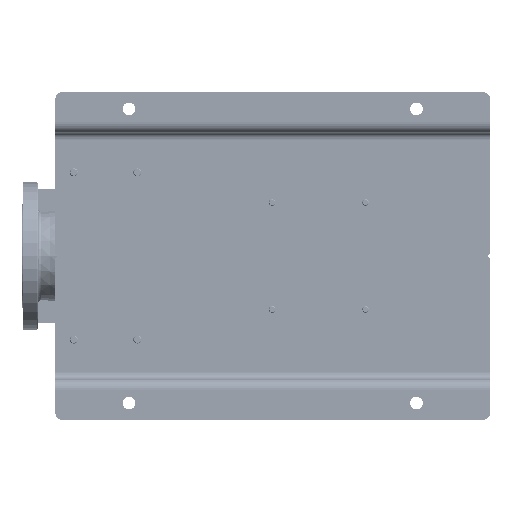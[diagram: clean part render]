
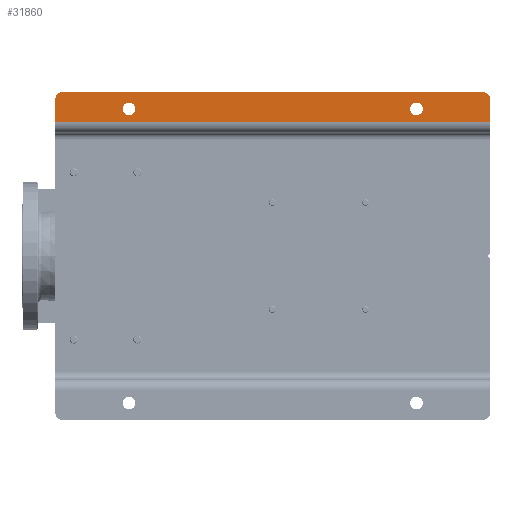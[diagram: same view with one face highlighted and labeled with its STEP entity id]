
A CAD part, front view. The second image highlights one B-rep face of the part: STEP entity #31860.
In plain terms, the highlighted planar face has unit normal (0, -1, 0).
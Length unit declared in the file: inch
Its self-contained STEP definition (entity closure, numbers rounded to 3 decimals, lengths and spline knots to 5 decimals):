
#2993 = EDGE_CURVE ( 'NONE', #10802, #163742, #46278, .T. ) ;
#3232 = DIRECTION ( 'NONE',  ( 0., 0., -1. ) ) ;
#5412 = CARTESIAN_POINT ( 'NONE',  ( 18.30709, 0., -21.25984 ) ) ;
#5581 = EDGE_CURVE ( 'NONE', #163742, #10802, #150352, .T. ) ;
#7454 = VECTOR ( 'NONE', #88319, 39.37008 ) ;
#8104 = CIRCLE ( 'NONE', #137161, 0.37402 ) ;
#9392 = ORIENTED_EDGE ( 'NONE', *, *, #138699, .T. ) ;
#10003 = ORIENTED_EDGE ( 'NONE', *, *, #149561, .T. ) ;
#10802 = VERTEX_POINT ( 'NONE', #14853 ) ;
#11184 = EDGE_LOOP ( 'NONE', ( #16219, #10003 ) ) ;
#12920 = ORIENTED_EDGE ( 'NONE', *, *, #5581, .T. ) ;
#14853 = CARTESIAN_POINT ( 'NONE',  ( 17.93307, 0., -21.25984 ) ) ;
#16219 = ORIENTED_EDGE ( 'NONE', *, *, #29444, .T. ) ;
#17359 = FACE_OUTER_BOUND ( 'NONE', #139835, .T. ) ;
#20827 = CARTESIAN_POINT ( 'NONE',  ( 18.89764, 0., -0.3937 ) ) ;
#21022 = EDGE_CURVE ( 'NONE', #49579, #185769, #112016, .T. ) ;
#28812 = LINE ( 'NONE', #86136, #98584 ) ;
#29444 = EDGE_CURVE ( 'NONE', #184801, #96715, #8104, .T. ) ;
#30089 = EDGE_CURVE ( 'NONE', #146883, #49579, #92258, .T. ) ;
#31860 = ADVANCED_FACE ( 'NONE', ( #17359, #114200, #74665 ), #171492, .T. ) ;
#34768 = CIRCLE ( 'NONE', #73776, 0.3937 ) ;
#35228 = AXIS2_PLACEMENT_3D ( 'NONE', #48564, #105876, #147171 ) ;
#35470 = CARTESIAN_POINT ( 'NONE',  ( 18.6811, 0., -4.33071 ) ) ;
#35819 = ORIENTED_EDGE ( 'NONE', *, *, #62052, .T. ) ;
#36052 = VECTOR ( 'NONE', #38091, 39.37008 ) ;
#38091 = DIRECTION ( 'NONE',  ( 0., 0., -1. ) ) ;
#40995 = EDGE_CURVE ( 'NONE', #162009, #146883, #147432, .T. ) ;
#43716 = CARTESIAN_POINT ( 'NONE',  ( 16.88976, 0., -25.59055 ) ) ;
#46278 = CIRCLE ( 'NONE', #55296, 0.37402 ) ;
#48374 = AXIS2_PLACEMENT_3D ( 'NONE', #43716, #131955, #3232 ) ;
#48564 = CARTESIAN_POINT ( 'NONE',  ( 18.89764, 0., -25.19685 ) ) ;
#49579 = VERTEX_POINT ( 'NONE', #158524 ) ;
#55296 = AXIS2_PLACEMENT_3D ( 'NONE', #5412, #62781, #116381 ) ;
#57314 = AXIS2_PLACEMENT_3D ( 'NONE', #151841, #150918, #105895 ) ;
#61707 = DIRECTION ( 'NONE',  ( 0., 0., -1. ) ) ;
#62052 = EDGE_CURVE ( 'NONE', #123781, #162009, #93572, .T. ) ;
#62781 = DIRECTION ( 'NONE',  ( 0., 1., 0. ) ) ;
#64085 = DIRECTION ( 'NONE',  ( 0., -1., 0. ) ) ;
#73776 = AXIS2_PLACEMENT_3D ( 'NONE', #20827, #64085, #152316 ) ;
#74665 = FACE_BOUND ( 'NONE', #115690, .T. ) ;
#80980 = VECTOR ( 'NONE', #170210, 39.37008 ) ;
#86136 = CARTESIAN_POINT ( 'NONE',  ( 16.88976, 0., 0. ) ) ;
#88319 = DIRECTION ( 'NONE',  ( 1., 0., 0. ) ) ;
#91770 = CARTESIAN_POINT ( 'NONE',  ( 18.30709, 0., -4.33071 ) ) ;
#92258 = CIRCLE ( 'NONE', #35228, 0.3937 ) ;
#92664 = DIRECTION ( 'NONE',  ( 0., 1., 0. ) ) ;
#93572 = LINE ( 'NONE', #94495, #36052 ) ;
#94495 = CARTESIAN_POINT ( 'NONE',  ( 17.51969, 0., -25.59055 ) ) ;
#96715 = VERTEX_POINT ( 'NONE', #35470 ) ;
#97250 = EDGE_CURVE ( 'NONE', #123781, #135707, #28812, .T. ) ;
#98303 = CARTESIAN_POINT ( 'NONE',  ( 18.89764, 0., -25.59055 ) ) ;
#98584 = VECTOR ( 'NONE', #122609, 39.37008 ) ;
#99558 = ORIENTED_EDGE ( 'NONE', *, *, #30089, .T. ) ;
#104453 = ORIENTED_EDGE ( 'NONE', *, *, #40995, .T. ) ;
#105876 = DIRECTION ( 'NONE',  ( 0., -1., 0. ) ) ;
#105895 = DIRECTION ( 'NONE',  ( 0., 0., -1. ) ) ;
#110966 = ORIENTED_EDGE ( 'NONE', *, *, #2993, .T. ) ;
#112016 = LINE ( 'NONE', #172035, #80980 ) ;
#112293 = ORIENTED_EDGE ( 'NONE', *, *, #97250, .F. ) ;
#112569 = ORIENTED_EDGE ( 'NONE', *, *, #21022, .T. ) ;
#114200 = FACE_BOUND ( 'NONE', #11184, .T. ) ;
#115690 = EDGE_LOOP ( 'NONE', ( #110966, #12920 ) ) ;
#116381 = DIRECTION ( 'NONE',  ( 0., 0., -1. ) ) ;
#119691 = CIRCLE ( 'NONE', #173670, 0.37402 ) ;
#122609 = DIRECTION ( 'NONE',  ( 1., 0., 0. ) ) ;
#123781 = VERTEX_POINT ( 'NONE', #150284 ) ;
#124021 = CARTESIAN_POINT ( 'NONE',  ( 17.51969, 0., -25.59055 ) ) ;
#127207 = CARTESIAN_POINT ( 'NONE',  ( 18.30709, 0., -4.33071 ) ) ;
#130901 = DIRECTION ( 'NONE',  ( 0., 1., 0. ) ) ;
#131955 = DIRECTION ( 'NONE',  ( 0., -1., 0. ) ) ;
#135707 = VERTEX_POINT ( 'NONE', #138635 ) ;
#137161 = AXIS2_PLACEMENT_3D ( 'NONE', #91770, #92664, #61707 ) ;
#138635 = CARTESIAN_POINT ( 'NONE',  ( 18.89764, 0., 0. ) ) ;
#138699 = EDGE_CURVE ( 'NONE', #185769, #135707, #34768, .T. ) ;
#139835 = EDGE_LOOP ( 'NONE', ( #112293, #35819, #104453, #99558, #112569, #9392 ) ) ;
#146383 = CARTESIAN_POINT ( 'NONE',  ( 17.93307, 0., -4.33071 ) ) ;
#146883 = VERTEX_POINT ( 'NONE', #98303 ) ;
#147171 = DIRECTION ( 'NONE',  ( 0., 0., -1. ) ) ;
#147432 = LINE ( 'NONE', #175625, #7454 ) ;
#149561 = EDGE_CURVE ( 'NONE', #96715, #184801, #119691, .T. ) ;
#150284 = CARTESIAN_POINT ( 'NONE',  ( 17.51969, 0., 0. ) ) ;
#150352 = CIRCLE ( 'NONE', #57314, 0.37402 ) ;
#150918 = DIRECTION ( 'NONE',  ( 0., 1., 0. ) ) ;
#151841 = CARTESIAN_POINT ( 'NONE',  ( 18.30709, 0., -21.25984 ) ) ;
#152316 = DIRECTION ( 'NONE',  ( 0., 0., -1. ) ) ;
#156325 = DIRECTION ( 'NONE',  ( 0., 0., -1. ) ) ;
#158524 = CARTESIAN_POINT ( 'NONE',  ( 19.29134, 0., -25.19685 ) ) ;
#162009 = VERTEX_POINT ( 'NONE', #124021 ) ;
#163742 = VERTEX_POINT ( 'NONE', #166336 ) ;
#166336 = CARTESIAN_POINT ( 'NONE',  ( 18.6811, 0., -21.25984 ) ) ;
#170210 = DIRECTION ( 'NONE',  ( 0., 0., 1. ) ) ;
#171492 = PLANE ( 'NONE',  #48374 ) ;
#172035 = CARTESIAN_POINT ( 'NONE',  ( 19.29134, 0., -25.59055 ) ) ;
#173670 = AXIS2_PLACEMENT_3D ( 'NONE', #127207, #130901, #156325 ) ;
#175625 = CARTESIAN_POINT ( 'NONE',  ( 16.88976, 0., -25.59055 ) ) ;
#177632 = CARTESIAN_POINT ( 'NONE',  ( 19.29134, 0., -0.3937 ) ) ;
#184801 = VERTEX_POINT ( 'NONE', #146383 ) ;
#185769 = VERTEX_POINT ( 'NONE', #177632 ) ;
